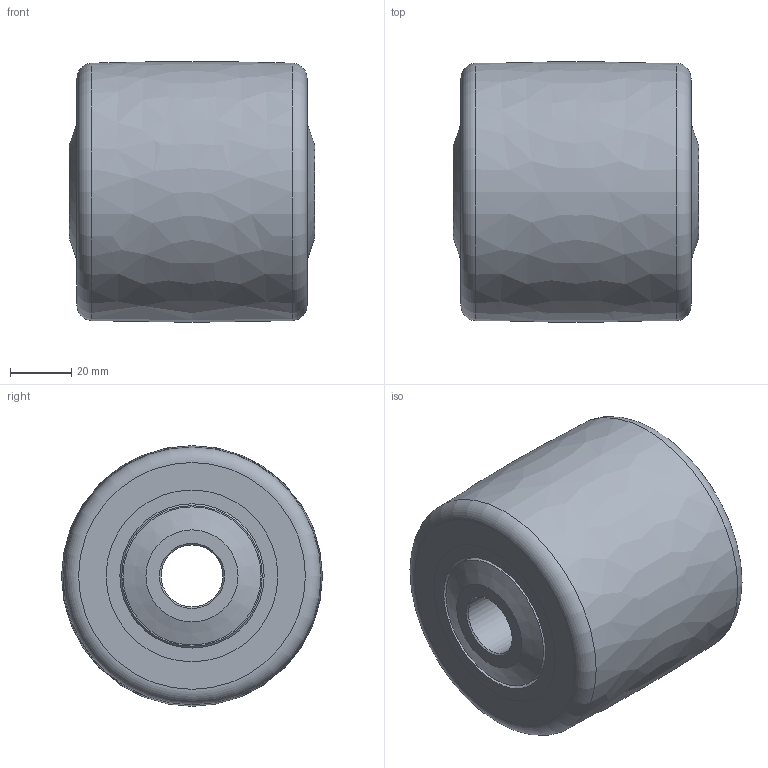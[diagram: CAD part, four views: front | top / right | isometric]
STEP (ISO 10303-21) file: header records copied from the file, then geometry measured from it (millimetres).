
FILE_DESCRIPTION(/* description */ (''),/* implementation_level */ '2;1');
FILE_NAME(/* name */ 'F:/기술영업부/홈페이지관련/2019/롤러도면/HURD-85-08020.step',/* time_stamp */ '2019-07-31T11:27:18+09:00',/* author */ (''),/* organization */ (''),/* preprocessor_version */ 'ST-DEVELOPER v18',/* originating_system */ 'Autodesk Translation Framework v8.2.0.1029',/* authorisation */ '');
FILE_SCHEMA (('AUTOMOTIVE_DESIGN { 1 0 10303 214 3 1 1 }'));
Length unit declared in the file: millimetre
Products named in the file (6): HURD-85-08020; Component1; Component2; Ball Bearing 6005; Roller_Cover D17 v2; Roller_Cover D17 v2 (1)
Assembly tree (6 placements, depth 2):
  HURD-85-08020
    Component1
    Component2
    Ball Bearing 6005  x2
    Roller_Cover D17 v2
    Roller_Cover D17 v2 (1)
Bounding box: 80 x 85 x 84.94 mm (x, y, z)
Volume: 347466.5 mm3; surface area: 98726.1 mm2
Topology: 40 solids, 40 shells, 124 faces, 332 edges, 238 vertices
Faces by surface type: cylinder 37, plane 30, sphere 28, cone 18, torus 10, bspline 1
Full cylindrical faces by diameter (mm): 20.2 x2, 24.8 x2, 25 x2, 30 x2, 32.923 x8, 39.077 x8, 41 x1, 45 x2, 47 x4, 53 x2, 56 x4
Entity records: 2913 total; most frequent: DIRECTION 551, CARTESIAN_POINT 486, ORIENTED_EDGE 398, AXIS2_PLACEMENT_3D 255, EDGE_CURVE 199, VERTEX_POINT 163, CIRCLE 158, EDGE_LOOP 108
